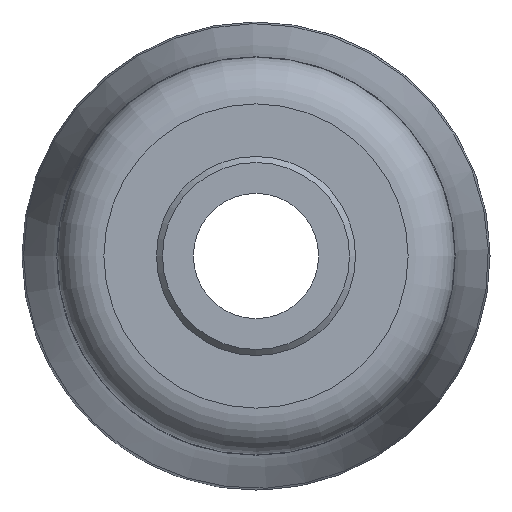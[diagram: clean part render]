
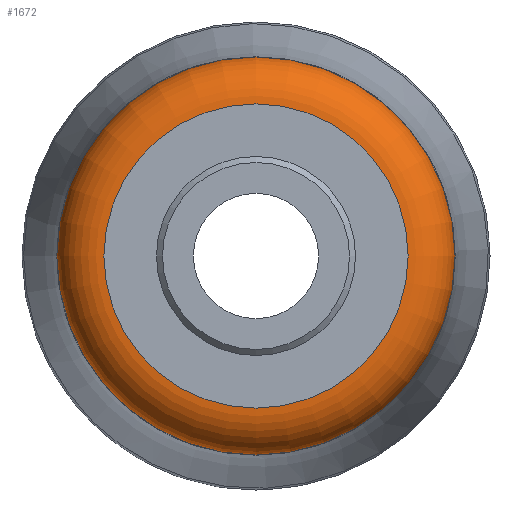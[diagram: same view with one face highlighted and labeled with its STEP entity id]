
A CAD part, left-side view. The second image highlights one B-rep face of the part: STEP entity #1672.
In plain terms, the highlighted toroidal (fillet/blend) face has major radius 18.85 mm and minor radius 5.8 mm.
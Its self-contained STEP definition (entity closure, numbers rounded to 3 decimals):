
#16=TOROIDAL_SURFACE('',#1828,18.85,5.8);
#353=FACE_BOUND('',#498,.T.);
#388=FACE_OUTER_BOUND('',#497,.T.);
#497=EDGE_LOOP('',(#1219));
#498=EDGE_LOOP('',(#1220));
#613=CIRCLE('',#1807,24.65);
#626=CIRCLE('',#1829,18.85);
#725=VERTEX_POINT('',#2859);
#735=VERTEX_POINT('',#2919);
#896=EDGE_CURVE('',#725,#725,#613,.T.);
#912=EDGE_CURVE('',#735,#735,#626,.T.);
#1219=ORIENTED_EDGE('',*,*,#912,.T.);
#1220=ORIENTED_EDGE('',*,*,#896,.T.);
#1672=ADVANCED_FACE('',(#388,#353),#16,.T.);
#1807=AXIS2_PLACEMENT_3D('',#2860,#2076,#2077);
#1828=AXIS2_PLACEMENT_3D('',#2918,#2119,#2120);
#1829=AXIS2_PLACEMENT_3D('',#2920,#2121,#2122);
#2076=DIRECTION('center_axis',(-1.,0.,0.));
#2077=DIRECTION('ref_axis',(0.,-1.,0.));
#2119=DIRECTION('center_axis',(1.,0.,0.));
#2120=DIRECTION('ref_axis',(0.,0.,-1.));
#2121=DIRECTION('center_axis',(1.,0.,0.));
#2122=DIRECTION('ref_axis',(0.,-1.,0.));
#2859=CARTESIAN_POINT('',(20.8,24.65,0.));
#2860=CARTESIAN_POINT('Origin',(20.8,0.,0.));
#2918=CARTESIAN_POINT('Origin',(20.8,0.,0.));
#2919=CARTESIAN_POINT('',(15.,18.85,0.));
#2920=CARTESIAN_POINT('Origin',(15.,0.,0.));
